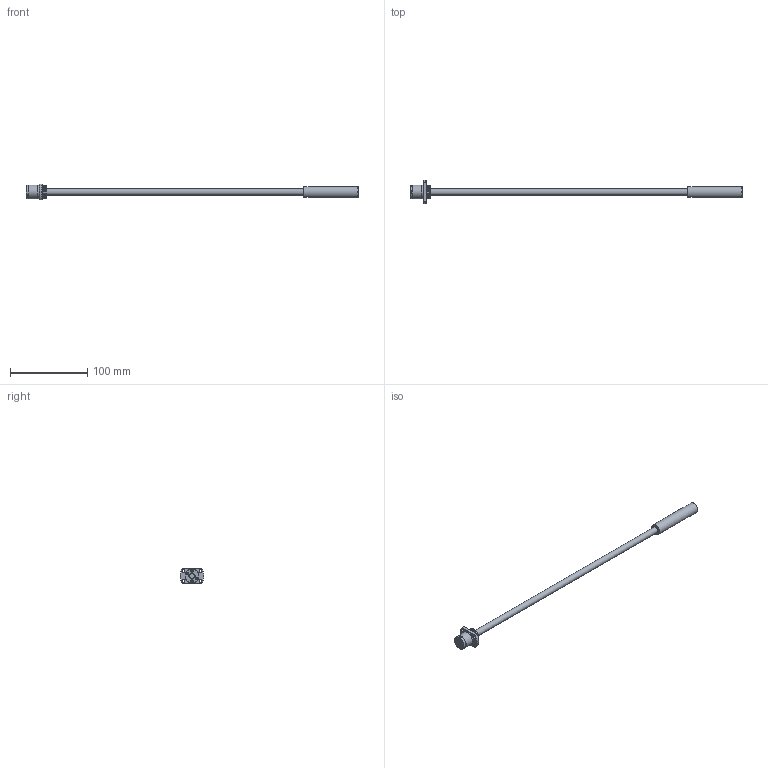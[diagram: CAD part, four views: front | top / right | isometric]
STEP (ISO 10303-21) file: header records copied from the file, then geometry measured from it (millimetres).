
FILE_DESCRIPTION( ( 'STEP AP203' ), '1' );
FILE_NAME( 'e:/temp/worker_95/temp/exporttempdir_3904_613_v0D4i/format_0/SRT0812-356R430C10A0X(0None).stp', '2021-10-19T05:34:30', ( 'License CC BY-ND 4.0' ), ( 'CADENAS' ), ' ', 'PARTsolutions', ' ' );
FILE_SCHEMA( ( 'CONFIG_CONTROL_DESIGN' ) );
Length unit declared in the file: millimetre
Products named in the file (3): SRT0812-356R430C10A0X(0None); _SRT0812-356R430ACt10NoneShaft; _SRT0812Nut
Assembly tree (2 placements, depth 2):
  SRT0812-356R430C10A0X(0None)
    _SRT0812-356R430ACt10NoneShaft
    _SRT0812Nut
Bounding box: 430 x 30.91 x 20 mm (x, y, z)
Volume: 35586.7 mm3; surface area: 16159.3 mm2
Topology: 2 solids, 2 shells, 139 faces, 333 edges, 220 vertices
Faces by surface type: plane 96, cylinder 34, cone 9
Full cylindrical faces by diameter (mm): 3 x8, 3.4 x4, 8 x2, 14.2 x1, 17.5 x1, 17.7 x2, 18 x2
Entity records: 4024 total; most frequent: CARTESIAN_POINT 692, DIRECTION 666, ORIENTED_EDGE 614, EDGE_CURVE 307, AXIS2_PLACEMENT_3D 225, VERTEX_POINT 219, LINE 216, VECTOR 216
